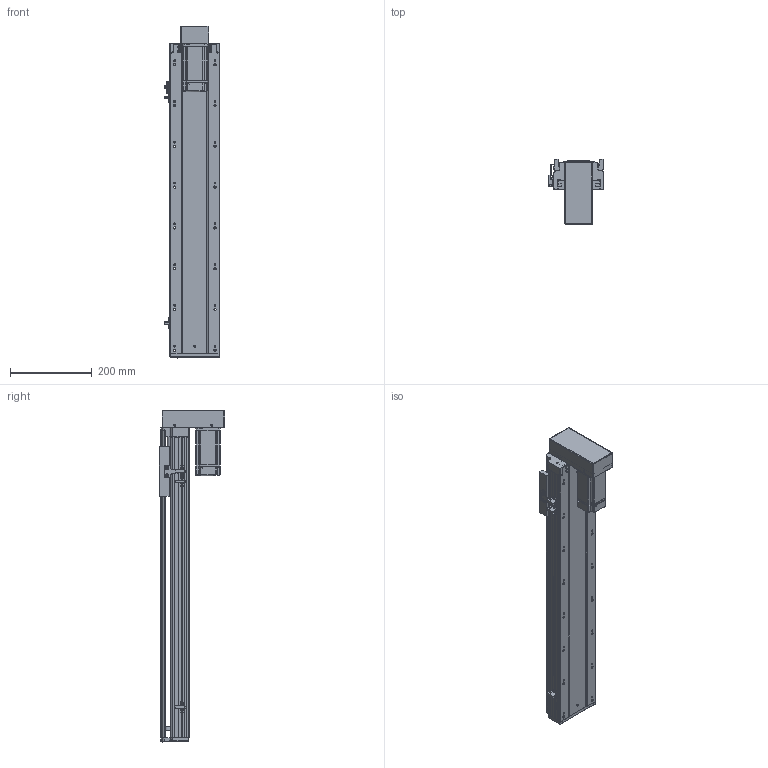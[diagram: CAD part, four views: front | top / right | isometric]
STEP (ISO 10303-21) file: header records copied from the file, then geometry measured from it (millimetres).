
FILE_DESCRIPTION (( 'STEP AP203' ), '1' );
FILE_NAME ('RY120-L2020-300-BK.SLDASM_550.step', '2021-03-12T06:57:39', ( '盈信电脑' ), ( '东莞市道滘镇水果街19号' ), 'SwSTEP 2.0', 'SolidWorks 2012', '' );
FILE_SCHEMA (( 'CONFIG_CONTROL_DESIGN' ));
Products named in the file (15): RY120-L2020-300-BK.SLDASM_550; RY120下折折电机安装板; RY120-400W萇儂傷-BK; RY120狟殏萇儂欶; 侂狟400W侜督萇儂; RY120转拆电端丝杆支撑座(20丝杆，7002轴承); RY120外置感应片(140共用）; 15; 覜茼ん672; RY120綴裔啣; 滅袉蝶18-24; 滅袉蝶18-10; RY120臏賑輸(20蹟譫); RY120-300-BK蛌殏倰第菁釱_550; RY120-300-BK蛌殏倰第奻裔啣_550
Assembly tree (17 placements, depth 4):
  RY120-L2020-300-BK.SLDASM_550
    RY120-300-BK蛌殏倰第菁釱_550
    RY120-300-BK蛌殏倰第奻裔啣_550
    RY120臏賑輸(20蹟譫)
    RY120綴裔啣
    覜茼ん672  x3
    滅袉蝶18-10
    滅袉蝶18-24  x2
    RY120外置感应片(140共用）
    RY120转拆电端丝杆支撑座(20丝杆，7002轴承)
    RY120-400W萇儂傷-BK
      侂狟400W侜督萇儂
        15
      RY120狟殏萇儂欶
      RY120下折折电机安装板
Bounding box: 135.7 x 159.5 x 814 mm (x, y, z)
Volume: 2519062.6 mm3; surface area: 907203.5 mm2
Topology: 16 solids, 16 shells, 2450 faces, 6747 edges, 4330 vertices
Faces by surface type: plane 1226, cylinder 914, cone 205, bspline 105
Entity records: 81665 total; most frequent: CARTESIAN_POINT 23209, ORIENTED_EDGE 12222, DIRECTION 11223, EDGE_CURVE 6111, VERTEX_POINT 3998, LINE 3773, VECTOR 3773, AXIS2_PLACEMENT_3D 3725
